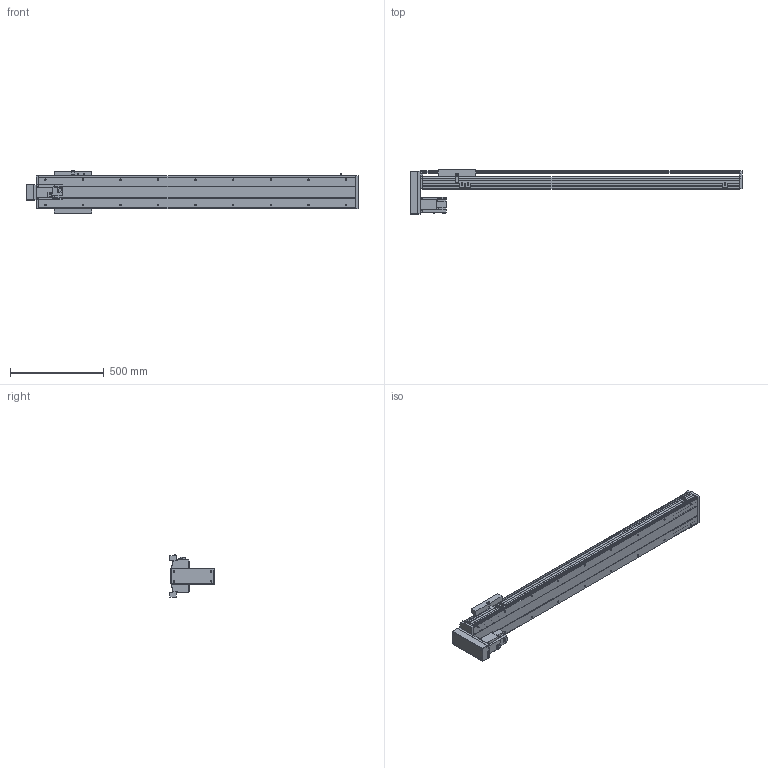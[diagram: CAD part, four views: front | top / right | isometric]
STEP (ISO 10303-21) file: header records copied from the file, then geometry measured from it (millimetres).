
FILE_DESCRIPTION(/* description */ ('STEP AP214'),/* implementation_level */ '2;1');
FILE_NAME(/* name */ 'PSS200-L10-S1350-BM-T75-C1-N(0)',/* time_stamp */ '2022-06-29T09:55:25+02:00',/* author */ ('License CC BY-ND 4.0'),/* organization */ ('CADENAS'),/* preprocessor_version */ 'ST-DEVELOPER v18.102',/* originating_system */ 'PARTsolutions',/* authorisation */ ' ');
FILE_SCHEMA (('AUTOMOTIVE_DESIGN {1 0 10303 214 3 1 1}'));
Length unit declared in the file: millimetre
Products named in the file (8): PSS200-L10-S1350-BM-T75-C1-N(0); PSS200-S1350-BM-N_S; T75-p1; PSS200BM-N_h; PSS200-N_sensor; PSS200-BM-C1-N_sl; PSS200-N_Q; PSS200-S1350-BM-C1-N_body
Assembly tree (9 placements, depth 2):
  PSS200-L10-S1350-BM-T75-C1-N(0)
    PSS200-S1350-BM-N_S
    T75-p1
    PSS200BM-N_h
    PSS200-N_sensor  x3
    PSS200-BM-C1-N_sl
    PSS200-N_Q
    PSS200-S1350-BM-C1-N_body
Bounding box: 1766.85 x 234.45 x 223.86 mm (x, y, z)
Volume: 10811834.6 mm3; surface area: 2702438.8 mm2
Topology: 9 solids, 9 shells, 610 faces, 1637 edges, 1086 vertices
Faces by surface type: plane 452, cylinder 128, cone 26, sphere 4
Full cylindrical faces by diameter (mm): 4 x2, 4.5 x4, 6 x7, 6.647 x22, 7.4 x4, 8 x8, 10 x6, 25 x1, 40 x1, 67 x1
Entity records: 16960 total; most frequent: CARTESIAN_POINT 2933, DIRECTION 2807, ORIENTED_EDGE 2758, EDGE_CURVE 1379, LINE 1071, VECTOR 1071, VERTEX_POINT 962, AXIS2_PLACEMENT_3D 868
